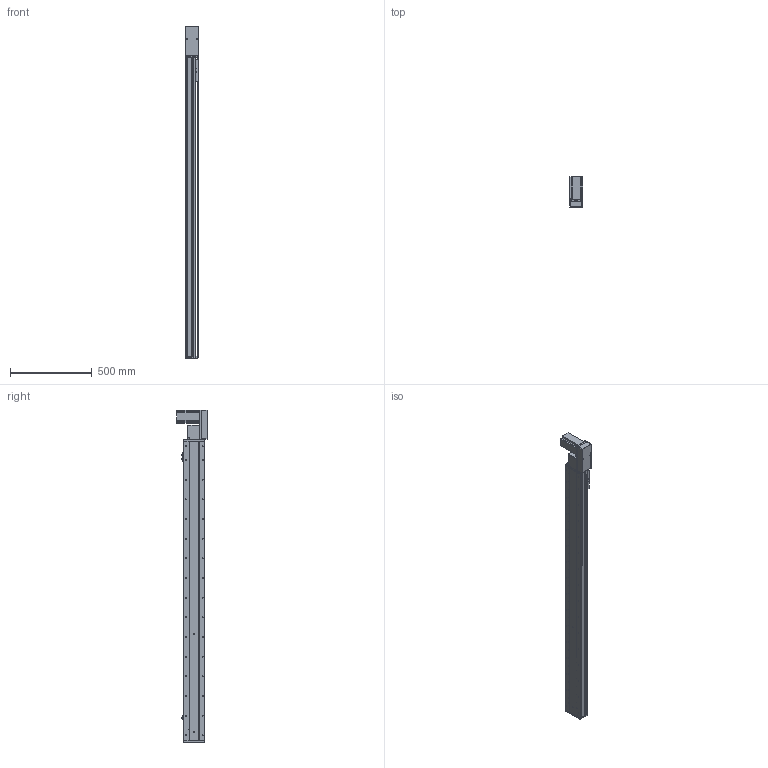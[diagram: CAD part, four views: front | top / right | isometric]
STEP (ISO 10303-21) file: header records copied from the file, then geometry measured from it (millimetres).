
FILE_DESCRIPTION (( 'STEP AP214' ), '1' );
FILE_NAME ('KSD130B-S1600-MLB-CM.STEP', '2019-09-19T08:28:46', ( '微软用户' ), ( '微软中国' ), 'SwSTEP 2.0', 'SolidWorks 2014', '' );
FILE_SCHEMA (( 'AUTOMOTIVE_DESIGN' ));
Length unit declared in the file: millimetre
Products named in the file (12): 台达ECMA－C20807AS伺服电机; 130宽模组保护罩上下左右折-同步带; 130宽模组马达安装板连板左右折同步带; 覜茼え100遵圉猾敕; U倰嫖萇EEㄜSX672; 130宽盖板半封闭同步带-1600行程; 130宽马达安装板同步带左-改; 130宽马达安装板同步带半封闭; 130宽同步带安装座半封闭; 130宽端盖同步带半封闭; 130宽底板半封闭同步带-1600行程; KSD130B-S1600-MLB-CM
Assembly tree (13 placements, depth 2):
  KSD130B-S1600-MLB-CM
    130宽底板半封闭同步带-1600行程
    130宽端盖同步带半封闭
    130宽同步带安装座半封闭
    130宽马达安装板同步带半封闭
    130宽马达安装板同步带左-改
    130宽盖板半封闭同步带-1600行程
    U倰嫖萇EEㄜSX672  x3
    覜茼え100遵圉猾敕
    130宽模组马达安装板连板左右折同步带
    130宽模组保护罩上下左右折-同步带
    台达ECMA－C20807AS伺服电机
Bounding box: 82.5 x 184.8 x 2027 mm (x, y, z)
Volume: 6606530.4 mm3; surface area: 1858521.4 mm2
Topology: 14 solids, 14 shells, 1689 faces, 4901 edges, 3111 vertices
Faces by surface type: cylinder 828, plane 646, cone 215
Entity records: 57247 total; most frequent: CARTESIAN_POINT 11012, DIRECTION 8635, ORIENTED_EDGE 8358, EDGE_CURVE 4179, AXIS2_PLACEMENT_3D 3174, VERTEX_POINT 2735, LINE 2287, VECTOR 2287
